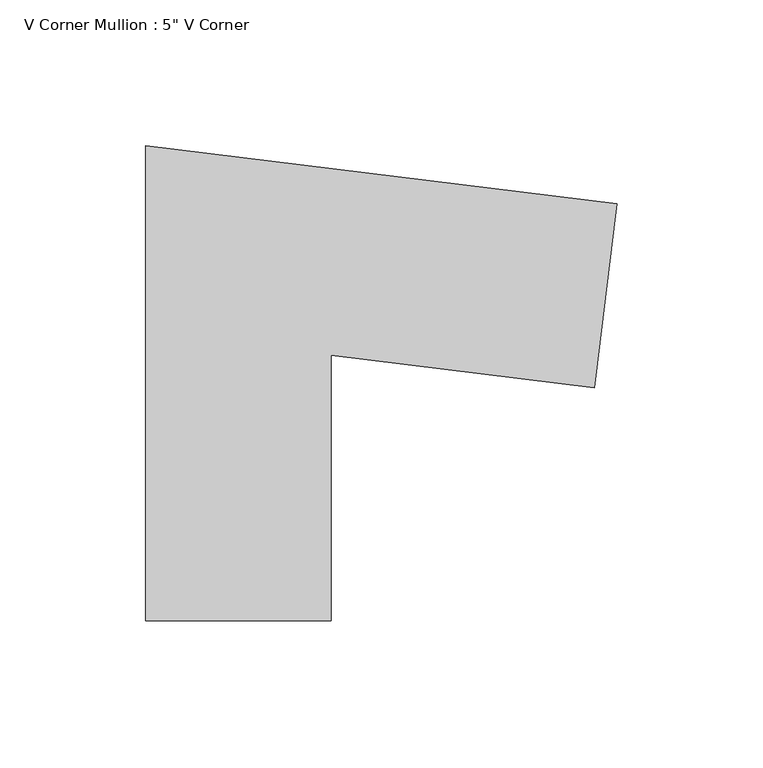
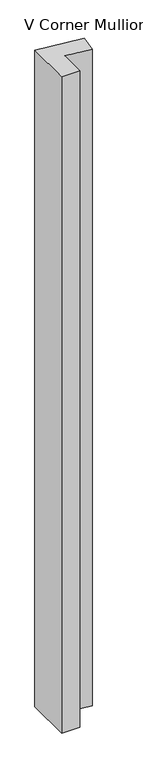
"""IFC4 building model written with IfcOpenShell, lengths in millimetres: member geometry."""

from ifc_helpers import new_model, si_unit, frame, origin, place, context, project, spatial, polyline, outline, extrude, source, transform, mapped, element, save


def member_28d637ce(model_context):
    return source(origin(), model_context, "Body", "SweptSolid", [
        extrude(outline(polyline([(66.0039553, 16.5092531), (-24.4300543, 27.6131532), (-24.4300543, -63.5), (-87.9300543, -63.5), (-87.9300543, 99.3868468), (73.7426586, 79.5359337), (66.0039553, 16.5092531)])), frame((0.0, 0.0, -2438.4), z_axis=(0.0, 0.0, 1.0), x_axis=(1.0, 0.0, 0.0)), (0.0, 0.0, 1.0), 2438.4),
    ])


if __name__ == "__main__":
    model = new_model("IFC4")
    model_context = context("Model", 3, world=origin())
    ifc_project = project(units=[si_unit("LENGTHUNIT", "METRE", prefix="MILLI")], contexts=[model_context])
    site = spatial("IfcSite", under=ifc_project)
    building = spatial("IfcBuilding", under=site)
    placement = place(None, origin())
    member_shape = member_28d637ce(model_context)
    element("IfcMember", 1, ObjectType="V Corner Mullion : 5\" V Corner", at=placement, inside=building, context=model_context, shape_type="MappedRepresentation", body=[
        mapped(member_shape, transform((0.0, 0.0, 0.0), x_axis=(1.0, 0.0, 0.0), y_axis=(0.0, 1.0, 0.0), z_axis=(0.0, 0.0, 1.0))),
    ])
    save(model, "model.ifc")
